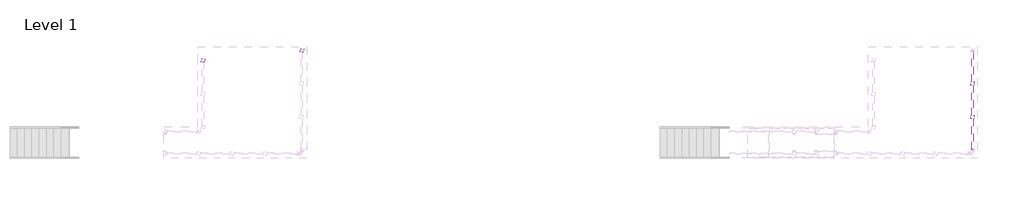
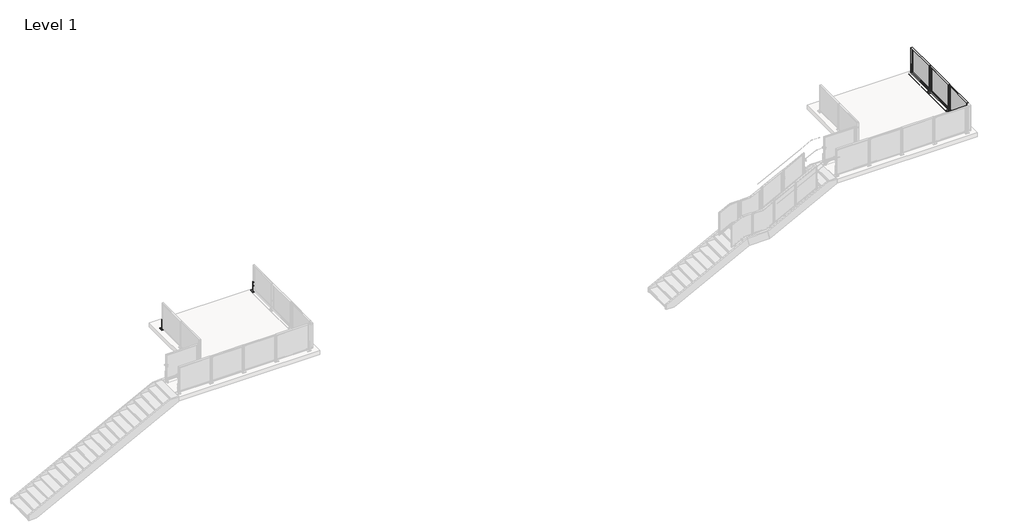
# One storey, part 18 of 37: 2 proxies, 1 railing.
"""IFC4 building model written with IfcOpenShell, lengths in millimetres."""

from ifc_helpers import new_model, si_unit, point, frame, frame_2d, origin, place, context, project, spatial, polyline, circle_curve, trimmed, segment, composite_curve, outline, extrude, faceted_brep, transform, mapped, element, save
from ifc_brep_helpers import plane_surface, cylinder_surface, advanced_brep
from components import baluster_end_post_viva_frame_top_mount_efd1a991

model = new_model("IFC4")

# Units and contexts
model_context = context("Model", 3, world=origin())
ifc_project = project(units=[si_unit("LENGTHUNIT", "METRE", prefix="MILLI")], contexts=[model_context])

# Site, building, storey
site = spatial("IfcSite", under=ifc_project)
building = spatial("IfcBuilding", under=site)
storey = spatial("IfcBuildingStorey", under=building, Name="Level 1", Elevation=0.0)

# Proxies
placement = place(None, origin())
baluster_end_post_viva_frame_top_mount_shape = baluster_end_post_viva_frame_top_mount_efd1a991(model_context)
element("IfcBuildingElementProxy", 1, Name="Baluster-End-Post-VIVA-FRAME-Top Mount : ANCHORED TO CONCRETE_TOP MOUNT FOLD_STRAIGHT", ObjectType="Baluster-End-Post-VIVA-FRAME-Top Mount : ANCHORED TO CONCRETE_TOP MOUNT FOLD_STRAIGHT", at=placement, inside=storey, context=model_context, shape_type="MappedRepresentation", body=[
    mapped(baluster_end_post_viva_frame_top_mount_shape, transform((-31481.1959244, -14872.2829234, 3047.492), x_axis=(0.0, -1.0, 0.0), y_axis=(1.0, 0.0, 0.0), z_axis=(0.0, 0.0, 1.0))),
])
element("IfcBuildingElementProxy", 2, Name="Baluster-End-Post-VIVA-FRAME-Top Mount : ANCHORED TO CONCRETE_TOP MOUNT FOLD_STRAIGHT", ObjectType="Baluster-End-Post-VIVA-FRAME-Top Mount : ANCHORED TO CONCRETE_TOP MOUNT FOLD_STRAIGHT", at=placement, inside=storey, context=model_context, shape_type="MappedRepresentation", body=[
    mapped(baluster_end_post_viva_frame_top_mount_shape, transform((-27904.0759339, -14480.5208207, 3047.492), x_axis=(0.0, 1.0, 0.0), y_axis=(-1.0, 0.0, 0.0), z_axis=(0.0, 0.0, 1.0))),
])

# Railing
element("IfcRailing", 3, ObjectType="Metal-Panel-VIVA-FRAME-Slab-Top-Anchor-Straight", at=placement, inside=storey, context=model_context, shape_type="SolidModel", body=[
    extrude(outline(composite_curve([segment(trimmed(circle_curve(frame_2d((3047.746, -2300.8759339)), 0.254), [point((3047.746, -2300.6219339))], [point((3047.746, -2301.1299339))], False, "CARTESIAN"), True, "CONTINUOUS"), segment(trimmed(circle_curve(frame_2d((3047.746, -2300.8759339)), 0.254), [point((3047.746, -2301.1299339))], [point((3047.746, -2300.6219339))], False, "CARTESIAN"), True, "CONTINUOUS")], self_intersect=False)), frame((0.0, -18290.5208207, 0.0), z_axis=(0.0, 1.0, 0.0), x_axis=(0.0, 0.0, 1.0)), (0.0, 0.0, 1.0), 3810.0),
    extrude(outline(composite_curve([segment(trimmed(circle_curve(frame_2d((3047.746, -2300.8759339)), 0.254), [point((3047.746, -2300.6219339))], [point((3047.746, -2301.1299339))], False, "CARTESIAN"), True, "CONTINUOUS"), segment(trimmed(circle_curve(frame_2d((3047.746, -2300.8759339)), 0.254), [point((3047.746, -2301.1299339))], [point((3047.746, -2300.6219339))], False, "CARTESIAN"), True, "CONTINUOUS")], self_intersect=False)), frame((0.0, -18290.5208207, 0.0), z_axis=(0.0, 1.0, 0.0), x_axis=(0.0, 0.0, 1.0)), (0.0, 0.0, 1.0), 3810.0),
    extrude(outline(polyline([(-2178.0655339, -15709.6943638), (-2181.0655339, -15709.6943638), (-2181.0655339, -14521.3472777), (-2178.0655339, -14521.3472777), (-2178.0655339, -15709.6943638)])), frame((0.0, 0.0, 3124.1959569), z_axis=(0.0, 0.0, 1.0), x_axis=(1.0, 0.0, 0.0)), (0.0, 0.0, 1.0), 990.5826861),
    faceted_brep([(-2178.0655339, -15735.0943638, 4140.1786431), (-2178.0655339, -15735.0943638, 3098.7959569), (-2178.0655339, -14495.9472777, 3098.7959569), (-2178.0655339, -14495.9472777, 4140.1786431), (-2178.0655339, -15709.6943638, 4114.7786431), (-2178.0655339, -14521.3472777, 4114.7786431), (-2178.0655339, -14521.3472777, 3124.1959569), (-2178.0655339, -15709.6943638, 3124.1959569), (-2181.0655339, -14521.3472777, 3124.1959569), (-2181.0655339, -15709.6943638, 3124.1959569), (-2181.0655339, -14521.3472777, 4114.7786431), (-2181.0655339, -15709.6943638, 4114.7786431), (-2231.8655339, -15729.0999638, 3104.7903569), (-2201.0553339, -15729.0999638, 3104.7903569), (-2201.0553339, -14501.9416777, 3104.7903569), (-2231.8655339, -14501.9416777, 3104.7903569), (-2201.0553339, -14501.9416777, 4134.1842431), (-2231.8655339, -14501.9416777, 4134.1842431), (-2231.8655339, -15729.0999638, 4134.1842431), (-2201.0553339, -15729.0999638, 4134.1842431), (-2231.8655339, -14495.9472777, 3098.7959569), (-2231.8655339, -15735.0943638, 3098.7959569), (-2231.8655339, -15735.0943638, 4140.1786431), (-2231.8655339, -14495.9472777, 4140.1786431), (-2181.0655339, -15684.2943638, 4089.3786431), (-2181.0655339, -14546.7472777, 4089.3786431), (-2181.0655339, -14546.7472777, 3149.5959569), (-2181.0655339, -15684.2943638, 3149.5959569), (-2201.0553339, -14546.7472777, 3149.5959569), (-2201.0553339, -14546.7472777, 4089.3786431), (-2201.0553339, -15684.2943638, 4089.3786431), (-2201.0553339, -15684.2943638, 3149.5959569)], [[[0, 1, 2, 3], [4, 5, 6, 7]], [[7, 6, 8, 9]], [[6, 5, 10, 8]], [[5, 4, 11, 10]], [[4, 7, 9, 11]], [[12, 13, 14, 15]], [[15, 14, 16, 17]], [[13, 12, 18, 19]], [[20, 21, 22, 23], [12, 15, 17, 18]], [[21, 1, 0, 22]], [[21, 20, 2, 1]], [[2, 20, 23, 3]], [[22, 0, 3, 23]], [[11, 9, 8, 10], [24, 25, 26, 27]], [[14, 13, 19, 16], [28, 29, 30, 31]], [[19, 18, 17, 16]], [[25, 24, 30, 29]], [[26, 25, 29, 28]], [[27, 26, 28, 31]], [[24, 27, 31, 30]]]),
    advanced_brep(
    [(-2204.9655339, -15776.7082207, 3178.1496), (-2204.9655339, -15776.7082207, 3197.2504), (-2204.9655339, -15776.7082207, 3187.7), (-2204.9655339, -15771.9330207, 3178.1496), (-2204.9655339, -15771.9330207, 3197.2504), (-2204.9655339, -15771.9330207, 3182.9248), (-2204.9655339, -15771.9330207, 3192.4752), (-2204.9655339, -15729.1086207, 3182.9248), (-2204.9655339, -15729.1086207, 3192.4752), (-2204.9655339, -15729.1086207, 3178.1496), (-2204.9655339, -15729.1086207, 3197.2504), (-2204.9655339, -15724.3334207, 3178.1496), (-2204.9655339, -15724.3334207, 3197.2504), (-2204.9655339, -15724.3334207, 3187.7)],
    [
        (0, 1, circle_curve(frame((-2204.9655339, -15776.7082207, 3187.7), z_axis=(0.0, -1.0, 0.0), x_axis=(0.0, 0.0, 1.0)), 9.5504)),
        (1, 2),
        (2, 0),
        (1, 0, circle_curve(frame((-2204.9655339, -15776.7082207, 3187.7), z_axis=(0.0, -1.0, 0.0), x_axis=(0.0, 0.0, 1.0)), 9.5504)),
        (3, 4, circle_curve(frame((-2204.9655339, -15771.9330207, 3187.7), z_axis=(0.0, -1.0, 0.0), x_axis=(0.0, 0.0, 1.0)), 9.5504)),
        (4, 1),
        (0, 3),
        (4, 3, circle_curve(frame((-2204.9655339, -15771.9330207, 3187.7), z_axis=(0.0, -1.0, 0.0), x_axis=(0.0, 0.0, 1.0)), 9.5504)),
        (5, 6, circle_curve(frame((-2204.9655339, -15771.9330207, 3187.7), z_axis=(0.0, -1.0, 0.0), x_axis=(0.0, 0.0, 1.0)), 4.7752)),
        (6, 4),
        (3, 5),
        (6, 5, circle_curve(frame((-2204.9655339, -15771.9330207, 3187.7), z_axis=(0.0, -1.0, 0.0), x_axis=(0.0, 0.0, 1.0)), 4.7752)),
        (7, 8, circle_curve(frame((-2204.9655339, -15729.1086207, 3187.7), z_axis=(0.0, -1.0, 0.0), x_axis=(0.0, 0.0, 1.0)), 4.7752)),
        (8, 6),
        (5, 7),
        (8, 7, circle_curve(frame((-2204.9655339, -15729.1086207, 3187.7), z_axis=(0.0, -1.0, 0.0), x_axis=(0.0, 0.0, 1.0)), 4.7752)),
        (9, 10, circle_curve(frame((-2204.9655339, -15729.1086207, 3187.7), z_axis=(0.0, -1.0, 0.0), x_axis=(0.0, 0.0, 1.0)), 9.5504)),
        (10, 8),
        (7, 9),
        (10, 9, circle_curve(frame((-2204.9655339, -15729.1086207, 3187.7), z_axis=(0.0, -1.0, 0.0), x_axis=(0.0, 0.0, 1.0)), 9.5504)),
        (11, 12, circle_curve(frame((-2204.9655339, -15724.3334207, 3187.7), z_axis=(0.0, -1.0, 0.0), x_axis=(0.0, 0.0, 1.0)), 9.5504)),
        (12, 10),
        (9, 11),
        (12, 11, circle_curve(frame((-2204.9655339, -15724.3334207, 3187.7), z_axis=(0.0, -1.0, 0.0), x_axis=(0.0, 0.0, 1.0)), 9.5504)),
        (13, 12),
        (11, 13),
    ],
    [
        plane_surface(frame((-2204.9655339, -15776.7082207, 3187.7), z_axis=(0.0, -1.0, 0.0), x_axis=(0.0, 0.0, 1.0))),
        cylinder_surface(frame((-2204.9655339, -19168.2885779, 3187.7), z_axis=(0.0, 1.0, 0.0), x_axis=(0.0, 0.0, 1.0)), 9.5504),
        plane_surface(frame((-2204.9655339, -15771.9330207, 3187.7), z_axis=(0.0, 1.0, 0.0), x_axis=(0.0, 0.0, 1.0))),
        cylinder_surface(frame((-2204.9655339, -19168.2885779, 3187.7), z_axis=(0.0, 1.0, 0.0), x_axis=(0.0, 0.0, 1.0)), 4.7752),
        plane_surface(frame((-2204.9655339, -15729.1086207, 3187.7), z_axis=(0.0, -1.0, 0.0), x_axis=(0.0, 0.0, 1.0))),
        plane_surface(frame((-2204.9655339, -15724.3334207, 3187.7), z_axis=(0.0, 1.0, 0.0), x_axis=(0.0, 0.0, 1.0))),
    ],
    [
        (0, [[1, 2, 3]]),
        (0, [[4, -3, -2]]),
        (1, [[5, 6, -1, 7]]),
        (1, [[8, -7, -4, -6]]),
        (2, [[9, 10, -5, 11]]),
        (2, [[12, -11, -8, -10]]),
        (3, [[13, 14, -9, 15]]),
        (3, [[16, -15, -12, -14]]),
        (4, [[17, 18, -13, 19]]),
        (4, [[20, -19, -16, -18]]),
        (1, [[21, 22, -17, 23]]),
        (1, [[24, -23, -20, -22]]),
        (5, [[25, -21, 26]]),
        (5, [[-26, -24, -25]]),
    ],
),
    advanced_brep(
    [(-2204.9655339, -15776.7082207, 3419.4496), (-2204.9655339, -15776.7082207, 3438.5504), (-2204.9655339, -15776.7082207, 3429.0), (-2204.9655339, -15771.9330207, 3419.4496), (-2204.9655339, -15771.9330207, 3438.5504), (-2204.9655339, -15771.9330207, 3424.2248), (-2204.9655339, -15771.9330207, 3433.7752), (-2204.9655339, -15729.1086207, 3424.2248), (-2204.9655339, -15729.1086207, 3433.7752), (-2204.9655339, -15729.1086207, 3419.4496), (-2204.9655339, -15729.1086207, 3438.5504), (-2204.9655339, -15724.3334207, 3419.4496), (-2204.9655339, -15724.3334207, 3438.5504), (-2204.9655339, -15724.3334207, 3429.0)],
    [
        (0, 1, circle_curve(frame((-2204.9655339, -15776.7082207, 3429.0), z_axis=(0.0, -1.0, 0.0), x_axis=(0.0, 0.0, 1.0)), 9.5504)),
        (1, 2),
        (2, 0),
        (1, 0, circle_curve(frame((-2204.9655339, -15776.7082207, 3429.0), z_axis=(0.0, -1.0, 0.0), x_axis=(0.0, 0.0, 1.0)), 9.5504)),
        (3, 4, circle_curve(frame((-2204.9655339, -15771.9330207, 3429.0), z_axis=(0.0, -1.0, 0.0), x_axis=(0.0, 0.0, 1.0)), 9.5504)),
        (4, 1),
        (0, 3),
        (4, 3, circle_curve(frame((-2204.9655339, -15771.9330207, 3429.0), z_axis=(0.0, -1.0, 0.0), x_axis=(0.0, 0.0, 1.0)), 9.5504)),
        (5, 6, circle_curve(frame((-2204.9655339, -15771.9330207, 3429.0), z_axis=(0.0, -1.0, 0.0), x_axis=(0.0, 0.0, 1.0)), 4.7752)),
        (6, 4),
        (3, 5),
        (6, 5, circle_curve(frame((-2204.9655339, -15771.9330207, 3429.0), z_axis=(0.0, -1.0, 0.0), x_axis=(0.0, 0.0, 1.0)), 4.7752)),
        (7, 8, circle_curve(frame((-2204.9655339, -15729.1086207, 3429.0), z_axis=(0.0, -1.0, 0.0), x_axis=(0.0, 0.0, 1.0)), 4.7752)),
        (8, 6),
        (5, 7),
        (8, 7, circle_curve(frame((-2204.9655339, -15729.1086207, 3429.0), z_axis=(0.0, -1.0, 0.0), x_axis=(0.0, 0.0, 1.0)), 4.7752)),
        (9, 10, circle_curve(frame((-2204.9655339, -15729.1086207, 3429.0), z_axis=(0.0, -1.0, 0.0), x_axis=(0.0, 0.0, 1.0)), 9.5504)),
        (10, 8),
        (7, 9),
        (10, 9, circle_curve(frame((-2204.9655339, -15729.1086207, 3429.0), z_axis=(0.0, -1.0, 0.0), x_axis=(0.0, 0.0, 1.0)), 9.5504)),
        (11, 12, circle_curve(frame((-2204.9655339, -15724.3334207, 3429.0), z_axis=(0.0, -1.0, 0.0), x_axis=(0.0, 0.0, 1.0)), 9.5504)),
        (12, 10),
        (9, 11),
        (12, 11, circle_curve(frame((-2204.9655339, -15724.3334207, 3429.0), z_axis=(0.0, -1.0, 0.0), x_axis=(0.0, 0.0, 1.0)), 9.5504)),
        (13, 12),
        (11, 13),
    ],
    [
        plane_surface(frame((-2204.9655339, -15776.7082207, 3429.0), z_axis=(0.0, -1.0, 0.0), x_axis=(0.0, 0.0, 1.0))),
        cylinder_surface(frame((-2204.9655339, -19168.2885779, 3429.0), z_axis=(0.0, 1.0, 0.0), x_axis=(0.0, 0.0, 1.0)), 9.5504),
        plane_surface(frame((-2204.9655339, -15771.9330207, 3429.0), z_axis=(0.0, 1.0, 0.0), x_axis=(0.0, 0.0, 1.0))),
        cylinder_surface(frame((-2204.9655339, -19168.2885779, 3429.0), z_axis=(0.0, 1.0, 0.0), x_axis=(0.0, 0.0, 1.0)), 4.7752),
        plane_surface(frame((-2204.9655339, -15729.1086207, 3429.0), z_axis=(0.0, -1.0, 0.0), x_axis=(0.0, 0.0, 1.0))),
        plane_surface(frame((-2204.9655339, -15724.3334207, 3429.0), z_axis=(0.0, 1.0, 0.0), x_axis=(0.0, 0.0, 1.0))),
    ],
    [
        (0, [[1, 2, 3]]),
        (0, [[4, -3, -2]]),
        (1, [[5, 6, -1, 7]]),
        (1, [[8, -7, -4, -6]]),
        (2, [[9, 10, -5, 11]]),
        (2, [[12, -11, -8, -10]]),
        (3, [[13, 14, -9, 15]]),
        (3, [[16, -15, -12, -14]]),
        (4, [[17, 18, -13, 19]]),
        (4, [[20, -19, -16, -18]]),
        (1, [[21, 22, -17, 23]]),
        (1, [[24, -23, -20, -22]]),
        (5, [[25, -21, 26]]),
        (5, [[-26, -24, -25]]),
    ],
),
    extrude(outline(polyline([(-2270.8531339, -15816.4084207), (-2270.8531339, -15684.6332207), (-2139.0779339, -15684.6332207), (-2139.0779339, -15816.4084207), (-2270.8531339, -15816.4084207)])), frame((0.0, 0.0, 3048.0), z_axis=(0.0, 0.0, 1.0), x_axis=(1.0, 0.0, 0.0)), (0.0, 0.0, 1.0), 25.4),
    extrude(outline(polyline([(-2227.1905339, -15758.4604124), (-2227.1905339, -15742.5812291), (-2182.7405339, -15742.5812291), (-2182.7405339, -15758.4604124), (-2227.1905339, -15758.4604124)])), frame((0.0, 0.0, 3048.0), z_axis=(0.0, 0.0, 1.0), x_axis=(1.0, 0.0, 0.0)), (0.0, 0.0, 1.0), 406.4),
    extrude(outline(polyline([(-2178.0655339, -16979.6943638), (-2181.0655339, -16979.6943638), (-2181.0655339, -15791.3472777), (-2178.0655339, -15791.3472777), (-2178.0655339, -16979.6943638)])), frame((0.0, 0.0, 3124.1959569), z_axis=(0.0, 0.0, 1.0), x_axis=(1.0, 0.0, 0.0)), (0.0, 0.0, 1.0), 990.5826861),
    faceted_brep([(-2178.0655339, -17005.0943638, 4140.1786431), (-2178.0655339, -17005.0943638, 3098.7959569), (-2178.0655339, -15765.9472777, 3098.7959569), (-2178.0655339, -15765.9472777, 4140.1786431), (-2178.0655339, -16979.6943638, 4114.7786431), (-2178.0655339, -15791.3472777, 4114.7786431), (-2178.0655339, -15791.3472777, 3124.1959569), (-2178.0655339, -16979.6943638, 3124.1959569), (-2181.0655339, -15791.3472777, 3124.1959569), (-2181.0655339, -16979.6943638, 3124.1959569), (-2181.0655339, -15791.3472777, 4114.7786431), (-2181.0655339, -16979.6943638, 4114.7786431), (-2231.8655339, -16999.0999638, 3104.7903569), (-2201.0553339, -16999.0999638, 3104.7903569), (-2201.0553339, -15771.9416777, 3104.7903569), (-2231.8655339, -15771.9416777, 3104.7903569), (-2201.0553339, -15771.9416777, 4134.1842431), (-2231.8655339, -15771.9416777, 4134.1842431), (-2231.8655339, -16999.0999638, 4134.1842431), (-2201.0553339, -16999.0999638, 4134.1842431), (-2231.8655339, -15765.9472777, 3098.7959569), (-2231.8655339, -17005.0943638, 3098.7959569), (-2231.8655339, -17005.0943638, 4140.1786431), (-2231.8655339, -15765.9472777, 4140.1786431), (-2181.0655339, -16954.2943638, 4089.3786431), (-2181.0655339, -15816.7472777, 4089.3786431), (-2181.0655339, -15816.7472777, 3149.5959569), (-2181.0655339, -16954.2943638, 3149.5959569), (-2201.0553339, -15816.7472777, 3149.5959569), (-2201.0553339, -15816.7472777, 4089.3786431), (-2201.0553339, -16954.2943638, 4089.3786431), (-2201.0553339, -16954.2943638, 3149.5959569)], [[[0, 1, 2, 3], [4, 5, 6, 7]], [[7, 6, 8, 9]], [[6, 5, 10, 8]], [[5, 4, 11, 10]], [[4, 7, 9, 11]], [[12, 13, 14, 15]], [[15, 14, 16, 17]], [[13, 12, 18, 19]], [[20, 21, 22, 23], [12, 15, 17, 18]], [[21, 1, 0, 22]], [[21, 20, 2, 1]], [[2, 20, 23, 3]], [[22, 0, 3, 23]], [[11, 9, 8, 10], [24, 25, 26, 27]], [[14, 13, 19, 16], [28, 29, 30, 31]], [[19, 18, 17, 16]], [[25, 24, 30, 29]], [[26, 25, 29, 28]], [[27, 26, 28, 31]], [[24, 27, 31, 30]]]),
    advanced_brep(
    [(-2204.9655339, -17046.7082207, 3178.1496), (-2204.9655339, -17046.7082207, 3197.2504), (-2204.9655339, -17046.7082207, 3187.7), (-2204.9655339, -17041.9330207, 3178.1496), (-2204.9655339, -17041.9330207, 3197.2504), (-2204.9655339, -17041.9330207, 3182.9248), (-2204.9655339, -17041.9330207, 3192.4752), (-2204.9655339, -16999.1086207, 3182.9248), (-2204.9655339, -16999.1086207, 3192.4752), (-2204.9655339, -16999.1086207, 3178.1496), (-2204.9655339, -16999.1086207, 3197.2504), (-2204.9655339, -16994.3334207, 3178.1496), (-2204.9655339, -16994.3334207, 3197.2504), (-2204.9655339, -16994.3334207, 3187.7)],
    [
        (0, 1, circle_curve(frame((-2204.9655339, -17046.7082207, 3187.7), z_axis=(0.0, -1.0, 0.0), x_axis=(0.0, 0.0, 1.0)), 9.5504)),
        (1, 2),
        (2, 0),
        (1, 0, circle_curve(frame((-2204.9655339, -17046.7082207, 3187.7), z_axis=(0.0, -1.0, 0.0), x_axis=(0.0, 0.0, 1.0)), 9.5504)),
        (3, 4, circle_curve(frame((-2204.9655339, -17041.9330207, 3187.7), z_axis=(0.0, -1.0, 0.0), x_axis=(0.0, 0.0, 1.0)), 9.5504)),
        (4, 1),
        (0, 3),
        (4, 3, circle_curve(frame((-2204.9655339, -17041.9330207, 3187.7), z_axis=(0.0, -1.0, 0.0), x_axis=(0.0, 0.0, 1.0)), 9.5504)),
        (5, 6, circle_curve(frame((-2204.9655339, -17041.9330207, 3187.7), z_axis=(0.0, -1.0, 0.0), x_axis=(0.0, 0.0, 1.0)), 4.7752)),
        (6, 4),
        (3, 5),
        (6, 5, circle_curve(frame((-2204.9655339, -17041.9330207, 3187.7), z_axis=(0.0, -1.0, 0.0), x_axis=(0.0, 0.0, 1.0)), 4.7752)),
        (7, 8, circle_curve(frame((-2204.9655339, -16999.1086207, 3187.7), z_axis=(0.0, -1.0, 0.0), x_axis=(0.0, 0.0, 1.0)), 4.7752)),
        (8, 6),
        (5, 7),
        (8, 7, circle_curve(frame((-2204.9655339, -16999.1086207, 3187.7), z_axis=(0.0, -1.0, 0.0), x_axis=(0.0, 0.0, 1.0)), 4.7752)),
        (9, 10, circle_curve(frame((-2204.9655339, -16999.1086207, 3187.7), z_axis=(0.0, -1.0, 0.0), x_axis=(0.0, 0.0, 1.0)), 9.5504)),
        (10, 8),
        (7, 9),
        (10, 9, circle_curve(frame((-2204.9655339, -16999.1086207, 3187.7), z_axis=(0.0, -1.0, 0.0), x_axis=(0.0, 0.0, 1.0)), 9.5504)),
        (11, 12, circle_curve(frame((-2204.9655339, -16994.3334207, 3187.7), z_axis=(0.0, -1.0, 0.0), x_axis=(0.0, 0.0, 1.0)), 9.5504)),
        (12, 10),
        (9, 11),
        (12, 11, circle_curve(frame((-2204.9655339, -16994.3334207, 3187.7), z_axis=(0.0, -1.0, 0.0), x_axis=(0.0, 0.0, 1.0)), 9.5504)),
        (13, 12),
        (11, 13),
    ],
    [
        plane_surface(frame((-2204.9655339, -17046.7082207, 3187.7), z_axis=(0.0, -1.0, 0.0), x_axis=(0.0, 0.0, 1.0))),
        cylinder_surface(frame((-2204.9655339, -20438.2885779, 3187.7), z_axis=(0.0, 1.0, 0.0), x_axis=(0.0, 0.0, 1.0)), 9.5504),
        plane_surface(frame((-2204.9655339, -17041.9330207, 3187.7), z_axis=(0.0, 1.0, 0.0), x_axis=(0.0, 0.0, 1.0))),
        cylinder_surface(frame((-2204.9655339, -20438.2885779, 3187.7), z_axis=(0.0, 1.0, 0.0), x_axis=(0.0, 0.0, 1.0)), 4.7752),
        plane_surface(frame((-2204.9655339, -16999.1086207, 3187.7), z_axis=(0.0, -1.0, 0.0), x_axis=(0.0, 0.0, 1.0))),
        plane_surface(frame((-2204.9655339, -16994.3334207, 3187.7), z_axis=(0.0, 1.0, 0.0), x_axis=(0.0, 0.0, 1.0))),
    ],
    [
        (0, [[1, 2, 3]]),
        (0, [[4, -3, -2]]),
        (1, [[5, 6, -1, 7]]),
        (1, [[8, -7, -4, -6]]),
        (2, [[9, 10, -5, 11]]),
        (2, [[12, -11, -8, -10]]),
        (3, [[13, 14, -9, 15]]),
        (3, [[16, -15, -12, -14]]),
        (4, [[17, 18, -13, 19]]),
        (4, [[20, -19, -16, -18]]),
        (1, [[21, 22, -17, 23]]),
        (1, [[24, -23, -20, -22]]),
        (5, [[25, -21, 26]]),
        (5, [[-26, -24, -25]]),
    ],
),
    advanced_brep(
    [(-2204.9655339, -17046.7082207, 3419.4496), (-2204.9655339, -17046.7082207, 3438.5504), (-2204.9655339, -17046.7082207, 3429.0), (-2204.9655339, -17041.9330207, 3419.4496), (-2204.9655339, -17041.9330207, 3438.5504), (-2204.9655339, -17041.9330207, 3424.2248), (-2204.9655339, -17041.9330207, 3433.7752), (-2204.9655339, -16999.1086207, 3424.2248), (-2204.9655339, -16999.1086207, 3433.7752), (-2204.9655339, -16999.1086207, 3419.4496), (-2204.9655339, -16999.1086207, 3438.5504), (-2204.9655339, -16994.3334207, 3419.4496), (-2204.9655339, -16994.3334207, 3438.5504), (-2204.9655339, -16994.3334207, 3429.0)],
    [
        (0, 1, circle_curve(frame((-2204.9655339, -17046.7082207, 3429.0), z_axis=(0.0, -1.0, 0.0), x_axis=(0.0, 0.0, 1.0)), 9.5504)),
        (1, 2),
        (2, 0),
        (1, 0, circle_curve(frame((-2204.9655339, -17046.7082207, 3429.0), z_axis=(0.0, -1.0, 0.0), x_axis=(0.0, 0.0, 1.0)), 9.5504)),
        (3, 4, circle_curve(frame((-2204.9655339, -17041.9330207, 3429.0), z_axis=(0.0, -1.0, 0.0), x_axis=(0.0, 0.0, 1.0)), 9.5504)),
        (4, 1),
        (0, 3),
        (4, 3, circle_curve(frame((-2204.9655339, -17041.9330207, 3429.0), z_axis=(0.0, -1.0, 0.0), x_axis=(0.0, 0.0, 1.0)), 9.5504)),
        (5, 6, circle_curve(frame((-2204.9655339, -17041.9330207, 3429.0), z_axis=(0.0, -1.0, 0.0), x_axis=(0.0, 0.0, 1.0)), 4.7752)),
        (6, 4),
        (3, 5),
        (6, 5, circle_curve(frame((-2204.9655339, -17041.9330207, 3429.0), z_axis=(0.0, -1.0, 0.0), x_axis=(0.0, 0.0, 1.0)), 4.7752)),
        (7, 8, circle_curve(frame((-2204.9655339, -16999.1086207, 3429.0), z_axis=(0.0, -1.0, 0.0), x_axis=(0.0, 0.0, 1.0)), 4.7752)),
        (8, 6),
        (5, 7),
        (8, 7, circle_curve(frame((-2204.9655339, -16999.1086207, 3429.0), z_axis=(0.0, -1.0, 0.0), x_axis=(0.0, 0.0, 1.0)), 4.7752)),
        (9, 10, circle_curve(frame((-2204.9655339, -16999.1086207, 3429.0), z_axis=(0.0, -1.0, 0.0), x_axis=(0.0, 0.0, 1.0)), 9.5504)),
        (10, 8),
        (7, 9),
        (10, 9, circle_curve(frame((-2204.9655339, -16999.1086207, 3429.0), z_axis=(0.0, -1.0, 0.0), x_axis=(0.0, 0.0, 1.0)), 9.5504)),
        (11, 12, circle_curve(frame((-2204.9655339, -16994.3334207, 3429.0), z_axis=(0.0, -1.0, 0.0), x_axis=(0.0, 0.0, 1.0)), 9.5504)),
        (12, 10),
        (9, 11),
        (12, 11, circle_curve(frame((-2204.9655339, -16994.3334207, 3429.0), z_axis=(0.0, -1.0, 0.0), x_axis=(0.0, 0.0, 1.0)), 9.5504)),
        (13, 12),
        (11, 13),
    ],
    [
        plane_surface(frame((-2204.9655339, -17046.7082207, 3429.0), z_axis=(0.0, -1.0, 0.0), x_axis=(0.0, 0.0, 1.0))),
        cylinder_surface(frame((-2204.9655339, -20438.2885779, 3429.0), z_axis=(0.0, 1.0, 0.0), x_axis=(0.0, 0.0, 1.0)), 9.5504),
        plane_surface(frame((-2204.9655339, -17041.9330207, 3429.0), z_axis=(0.0, 1.0, 0.0), x_axis=(0.0, 0.0, 1.0))),
        cylinder_surface(frame((-2204.9655339, -20438.2885779, 3429.0), z_axis=(0.0, 1.0, 0.0), x_axis=(0.0, 0.0, 1.0)), 4.7752),
        plane_surface(frame((-2204.9655339, -16999.1086207, 3429.0), z_axis=(0.0, -1.0, 0.0), x_axis=(0.0, 0.0, 1.0))),
        plane_surface(frame((-2204.9655339, -16994.3334207, 3429.0), z_axis=(0.0, 1.0, 0.0), x_axis=(0.0, 0.0, 1.0))),
    ],
    [
        (0, [[1, 2, 3]]),
        (0, [[4, -3, -2]]),
        (1, [[5, 6, -1, 7]]),
        (1, [[8, -7, -4, -6]]),
        (2, [[9, 10, -5, 11]]),
        (2, [[12, -11, -8, -10]]),
        (3, [[13, 14, -9, 15]]),
        (3, [[16, -15, -12, -14]]),
        (4, [[17, 18, -13, 19]]),
        (4, [[20, -19, -16, -18]]),
        (1, [[21, 22, -17, 23]]),
        (1, [[24, -23, -20, -22]]),
        (5, [[25, -21, 26]]),
        (5, [[-26, -24, -25]]),
    ],
),
    extrude(outline(polyline([(-2270.8531339, -17086.4084207), (-2270.8531339, -16954.6332207), (-2139.0779339, -16954.6332207), (-2139.0779339, -17086.4084207), (-2270.8531339, -17086.4084207)])), frame((0.0, 0.0, 3048.0), z_axis=(0.0, 0.0, 1.0), x_axis=(1.0, 0.0, 0.0)), (0.0, 0.0, 1.0), 25.4),
    extrude(outline(polyline([(-2227.1905339, -17028.4604124), (-2227.1905339, -17012.5812291), (-2182.7405339, -17012.5812291), (-2182.7405339, -17028.4604124), (-2227.1905339, -17028.4604124)])), frame((0.0, 0.0, 3048.0), z_axis=(0.0, 0.0, 1.0), x_axis=(1.0, 0.0, 0.0)), (0.0, 0.0, 1.0), 406.4),
    extrude(outline(polyline([(-2178.0655339, -18249.6943638), (-2181.0655339, -18249.6943638), (-2181.0655339, -17061.3472777), (-2178.0655339, -17061.3472777), (-2178.0655339, -18249.6943638)])), frame((0.0, 0.0, 3124.1959569), z_axis=(0.0, 0.0, 1.0), x_axis=(1.0, 0.0, 0.0)), (0.0, 0.0, 1.0), 990.5826861),
    faceted_brep([(-2178.0655339, -18275.0943638, 4140.1786431), (-2178.0655339, -18275.0943638, 3098.7959569), (-2178.0655339, -17035.9472777, 3098.7959569), (-2178.0655339, -17035.9472777, 4140.1786431), (-2178.0655339, -18249.6943638, 4114.7786431), (-2178.0655339, -17061.3472777, 4114.7786431), (-2178.0655339, -17061.3472777, 3124.1959569), (-2178.0655339, -18249.6943638, 3124.1959569), (-2181.0655339, -17061.3472777, 3124.1959569), (-2181.0655339, -18249.6943638, 3124.1959569), (-2181.0655339, -17061.3472777, 4114.7786431), (-2181.0655339, -18249.6943638, 4114.7786431), (-2231.8655339, -18269.0999638, 3104.7903569), (-2201.0553339, -18269.0999638, 3104.7903569), (-2201.0553339, -17041.9416777, 3104.7903569), (-2231.8655339, -17041.9416777, 3104.7903569), (-2201.0553339, -17041.9416777, 4134.1842431), (-2231.8655339, -17041.9416777, 4134.1842431), (-2231.8655339, -18269.0999638, 4134.1842431), (-2201.0553339, -18269.0999638, 4134.1842431), (-2231.8655339, -17035.9472777, 3098.7959569), (-2231.8655339, -18275.0943638, 3098.7959569), (-2231.8655339, -18275.0943638, 4140.1786431), (-2231.8655339, -17035.9472777, 4140.1786431), (-2181.0655339, -18224.2943638, 4089.3786431), (-2181.0655339, -17086.7472777, 4089.3786431), (-2181.0655339, -17086.7472777, 3149.5959569), (-2181.0655339, -18224.2943638, 3149.5959569), (-2201.0553339, -17086.7472777, 3149.5959569), (-2201.0553339, -17086.7472777, 4089.3786431), (-2201.0553339, -18224.2943638, 4089.3786431), (-2201.0553339, -18224.2943638, 3149.5959569)], [[[0, 1, 2, 3], [4, 5, 6, 7]], [[7, 6, 8, 9]], [[6, 5, 10, 8]], [[5, 4, 11, 10]], [[4, 7, 9, 11]], [[12, 13, 14, 15]], [[15, 14, 16, 17]], [[13, 12, 18, 19]], [[20, 21, 22, 23], [12, 15, 17, 18]], [[21, 1, 0, 22]], [[21, 20, 2, 1]], [[2, 20, 23, 3]], [[22, 0, 3, 23]], [[11, 9, 8, 10], [24, 25, 26, 27]], [[14, 13, 19, 16], [28, 29, 30, 31]], [[19, 18, 17, 16]], [[25, 24, 30, 29]], [[26, 25, 29, 28]], [[27, 26, 28, 31]], [[24, 27, 31, 30]]]),
])

save(model, "model.ifc")
